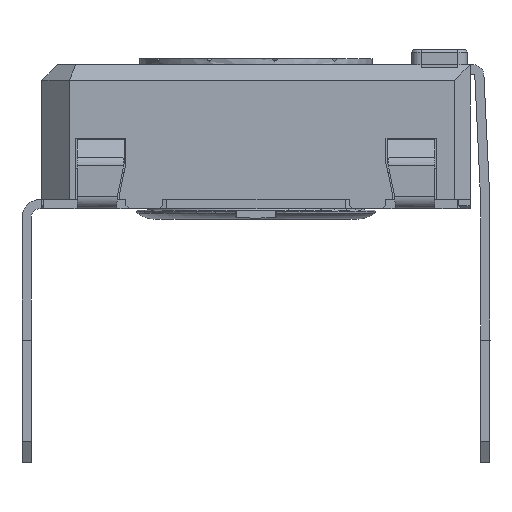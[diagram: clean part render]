
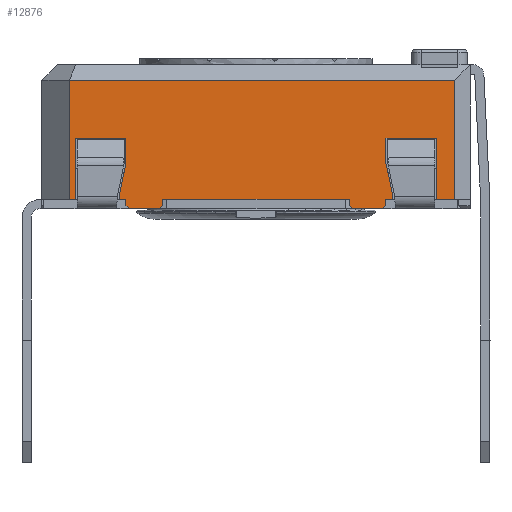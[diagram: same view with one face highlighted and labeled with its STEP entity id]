
A CAD part, left-side view. The second image highlights one B-rep face of the part: STEP entity #12876.
In plain terms, the highlighted planar face has unit normal (-1, 0, 0).
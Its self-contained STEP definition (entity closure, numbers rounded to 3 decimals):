
#446=PLANE('',#13748);
#1044=FACE_OUTER_BOUND('',#1730,.T.);
#1730=EDGE_LOOP('',(#10612,#10613,#10614,#10615,#10616,#10617,#10618,#10619,
#10620,#10621,#10622,#10623,#10624,#10625,#10626,#10627,#10628,#10629,#10630,
#10631,#10632,#10633,#10634,#10635,#10636,#10637,#10638,#10639));
#2720=LINE('',#19638,#4204);
#2726=LINE('',#19650,#4210);
#2729=LINE('',#19657,#4213);
#2734=LINE('',#19666,#4218);
#2754=LINE('',#19707,#4238);
#2768=LINE('',#19733,#4252);
#2772=LINE('',#19740,#4256);
#2787=LINE('',#19769,#4271);
#2790=LINE('',#19775,#4274);
#2795=LINE('',#19785,#4279);
#2798=LINE('',#19791,#4282);
#2801=LINE('',#19797,#4285);
#2819=LINE('',#19832,#4303);
#2831=LINE('',#19854,#4315);
#2834=LINE('',#19860,#4318);
#2871=LINE('',#19994,#4355);
#2879=LINE('',#20008,#4363);
#2888=LINE('',#20026,#4372);
#2893=LINE('',#20036,#4377);
#2895=LINE('',#20039,#4379);
#3019=LINE('',#20347,#4503);
#3021=LINE('',#20352,#4505);
#3024=LINE('',#20356,#4508);
#3026=LINE('',#20360,#4510);
#3029=LINE('',#20368,#4513);
#3030=LINE('',#20370,#4514);
#3031=LINE('',#20371,#4515);
#3032=LINE('',#20372,#4516);
#4204=VECTOR('',#15781,10.);
#4210=VECTOR('',#15789,10.);
#4213=VECTOR('',#15794,10.);
#4218=VECTOR('',#15801,10.);
#4238=VECTOR('',#15835,10.);
#4252=VECTOR('',#15849,10.);
#4256=VECTOR('',#15853,10.);
#4271=VECTOR('',#15880,10.);
#4274=VECTOR('',#15885,10.);
#4279=VECTOR('',#15892,10.);
#4282=VECTOR('',#15897,10.);
#4285=VECTOR('',#15902,10.);
#4303=VECTOR('',#15922,10.);
#4315=VECTOR('',#15936,10.);
#4318=VECTOR('',#15941,10.);
#4355=VECTOR('',#16022,10.);
#4363=VECTOR('',#16032,10.);
#4372=VECTOR('',#16043,10.);
#4377=VECTOR('',#16050,10.);
#4379=VECTOR('',#16054,10.);
#4503=VECTOR('',#16346,10.);
#4505=VECTOR('',#16350,10.);
#4508=VECTOR('',#16355,10.);
#4510=VECTOR('',#16361,10.);
#4513=VECTOR('',#16372,10.);
#4514=VECTOR('',#16373,10.);
#4515=VECTOR('',#16374,10.);
#4516=VECTOR('',#16375,10.);
#5908=VERTEX_POINT('',#19635);
#5909=VERTEX_POINT('',#19637);
#5913=VERTEX_POINT('',#19647);
#5915=VERTEX_POINT('',#19653);
#5917=VERTEX_POINT('',#19656);
#5920=VERTEX_POINT('',#19664);
#5945=VERTEX_POINT('',#19730);
#5946=VERTEX_POINT('',#19732);
#5948=VERTEX_POINT('',#19737);
#5949=VERTEX_POINT('',#19739);
#5956=VERTEX_POINT('',#19766);
#5958=VERTEX_POINT('',#19772);
#5962=VERTEX_POINT('',#19782);
#5964=VERTEX_POINT('',#19788);
#5967=VERTEX_POINT('',#19795);
#5983=VERTEX_POINT('',#19830);
#5992=VERTEX_POINT('',#19852);
#5994=VERTEX_POINT('',#19858);
#6021=VERTEX_POINT('',#19992);
#6026=VERTEX_POINT('',#20006);
#6033=VERTEX_POINT('',#20023);
#6037=VERTEX_POINT('',#20033);
#6111=VERTEX_POINT('',#20344);
#6112=VERTEX_POINT('',#20346);
#6113=VERTEX_POINT('',#20350);
#6114=VERTEX_POINT('',#20351);
#6115=VERTEX_POINT('',#20367);
#6116=VERTEX_POINT('',#20369);
#7396=EDGE_CURVE('',#5909,#5908,#2720,.T.);
#7402=EDGE_CURVE('',#5908,#5913,#2726,.T.);
#7405=EDGE_CURVE('',#5917,#5915,#2729,.T.);
#7410=EDGE_CURVE('',#5920,#5915,#2734,.T.);
#7430=EDGE_CURVE('',#5913,#5917,#2754,.T.);
#7444=EDGE_CURVE('',#5946,#5945,#2768,.T.);
#7448=EDGE_CURVE('',#5949,#5948,#2772,.T.);
#7464=EDGE_CURVE('',#5945,#5956,#2787,.T.);
#7467=EDGE_CURVE('',#5956,#5958,#2790,.T.);
#7472=EDGE_CURVE('',#5958,#5962,#2795,.T.);
#7475=EDGE_CURVE('',#5962,#5964,#2798,.T.);
#7478=EDGE_CURVE('',#5964,#5967,#2801,.T.);
#7496=EDGE_CURVE('',#5967,#5983,#2819,.T.);
#7508=EDGE_CURVE('',#5992,#5983,#2831,.T.);
#7511=EDGE_CURVE('',#5994,#5992,#2834,.T.);
#7560=EDGE_CURVE('',#6021,#5994,#2871,.T.);
#7568=EDGE_CURVE('',#6021,#6026,#2879,.T.);
#7577=EDGE_CURVE('',#6026,#6033,#2888,.T.);
#7582=EDGE_CURVE('',#6033,#6037,#2893,.T.);
#7584=EDGE_CURVE('',#6037,#5909,#2895,.T.);
#7724=EDGE_CURVE('',#6111,#6112,#3019,.T.);
#7726=EDGE_CURVE('',#6113,#6114,#3021,.T.);
#7729=EDGE_CURVE('',#5946,#6111,#3024,.T.);
#7731=EDGE_CURVE('',#5948,#6114,#3026,.T.);
#7734=EDGE_CURVE('',#5920,#6115,#3029,.T.);
#7735=EDGE_CURVE('',#6116,#6115,#3030,.T.);
#7736=EDGE_CURVE('',#5949,#6116,#3031,.T.);
#7737=EDGE_CURVE('',#6113,#6112,#3032,.T.);
#10612=ORIENTED_EDGE('',*,*,#7402,.T.);
#10613=ORIENTED_EDGE('',*,*,#7430,.T.);
#10614=ORIENTED_EDGE('',*,*,#7405,.T.);
#10615=ORIENTED_EDGE('',*,*,#7410,.F.);
#10616=ORIENTED_EDGE('',*,*,#7734,.T.);
#10617=ORIENTED_EDGE('',*,*,#7735,.F.);
#10618=ORIENTED_EDGE('',*,*,#7736,.F.);
#10619=ORIENTED_EDGE('',*,*,#7448,.T.);
#10620=ORIENTED_EDGE('',*,*,#7731,.T.);
#10621=ORIENTED_EDGE('',*,*,#7726,.F.);
#10622=ORIENTED_EDGE('',*,*,#7737,.T.);
#10623=ORIENTED_EDGE('',*,*,#7724,.F.);
#10624=ORIENTED_EDGE('',*,*,#7729,.F.);
#10625=ORIENTED_EDGE('',*,*,#7444,.T.);
#10626=ORIENTED_EDGE('',*,*,#7464,.T.);
#10627=ORIENTED_EDGE('',*,*,#7467,.T.);
#10628=ORIENTED_EDGE('',*,*,#7472,.T.);
#10629=ORIENTED_EDGE('',*,*,#7475,.T.);
#10630=ORIENTED_EDGE('',*,*,#7478,.T.);
#10631=ORIENTED_EDGE('',*,*,#7496,.T.);
#10632=ORIENTED_EDGE('',*,*,#7508,.F.);
#10633=ORIENTED_EDGE('',*,*,#7511,.F.);
#10634=ORIENTED_EDGE('',*,*,#7560,.F.);
#10635=ORIENTED_EDGE('',*,*,#7568,.T.);
#10636=ORIENTED_EDGE('',*,*,#7577,.T.);
#10637=ORIENTED_EDGE('',*,*,#7582,.T.);
#10638=ORIENTED_EDGE('',*,*,#7584,.T.);
#10639=ORIENTED_EDGE('',*,*,#7396,.T.);
#12876=ADVANCED_FACE('',(#1044),#446,.T.);
#13748=AXIS2_PLACEMENT_3D('',#20366,#16370,#16371);
#15781=DIRECTION('',(0.,0.208,-0.978));
#15789=DIRECTION('',(0.,0.,-1.));
#15794=DIRECTION('',(0.,0.,-1.));
#15801=DIRECTION('',(0.,0.707,0.707));
#15835=DIRECTION('',(0.,-1.,0.));
#15849=DIRECTION('',(0.,-1.,0.));
#15853=DIRECTION('',(0.,-1.,0.));
#15880=DIRECTION('',(0.,0.,1.));
#15885=DIRECTION('',(0.,0.208,0.978));
#15892=DIRECTION('',(0.,0.,1.));
#15897=DIRECTION('',(0.,-1.,0.));
#15902=DIRECTION('',(0.,0.,-1.));
#15922=DIRECTION('',(0.,-1.,0.));
#15936=DIRECTION('',(0.,0.,-1.));
#15941=DIRECTION('',(0.,-1.,0.));
#16022=DIRECTION('',(0.,0.,1.));
#16032=DIRECTION('',(0.,-1.,0.));
#16043=DIRECTION('',(0.,0.,1.));
#16050=DIRECTION('',(0.,-1.,0.));
#16054=DIRECTION('',(0.,0.,-1.));
#16346=DIRECTION('',(0.,0.707,-0.707));
#16350=DIRECTION('',(0.,0.707,0.707));
#16355=DIRECTION('',(0.,0.,-1.));
#16361=DIRECTION('',(0.,0.,-1.));
#16370=DIRECTION('center_axis',(-1.,0.,0.));
#16371=DIRECTION('ref_axis',(0.,0.,1.));
#16372=DIRECTION('',(0.,-1.,0.));
#16373=DIRECTION('',(0.,0.707,-0.707));
#16374=DIRECTION('',(0.,0.,-1.));
#16375=DIRECTION('',(0.,-1.,0.));
#19635=CARTESIAN_POINT('',(-14.467,1.552,0.235));
#19637=CARTESIAN_POINT('',(-14.467,1.352,1.176));
#19638=CARTESIAN_POINT('',(-14.467,1.228,1.757));
#19647=CARTESIAN_POINT('',(-14.467,1.552,0.));
#19650=CARTESIAN_POINT('',(-14.467,1.552,0.));
#19653=CARTESIAN_POINT('',(-14.467,1.352,-0.2));
#19656=CARTESIAN_POINT('',(-14.467,1.352,0.));
#19657=CARTESIAN_POINT('',(-14.467,1.352,0.));
#19664=CARTESIAN_POINT('',(-14.467,1.252,-0.3));
#19666=CARTESIAN_POINT('',(-14.467,-1.436,-2.988));
#19707=CARTESIAN_POINT('',(-14.467,4.102,0.));
#19730=CARTESIAN_POINT('',(-14.467,-7.348,0.));
#19732=CARTESIAN_POINT('',(-14.467,-7.148,0.));
#19733=CARTESIAN_POINT('',(-14.467,4.102,0.));
#19737=CARTESIAN_POINT('',(-14.467,-5.948,0.));
#19739=CARTESIAN_POINT('',(-14.467,0.152,0.));
#19740=CARTESIAN_POINT('',(-14.467,4.102,0.));
#19766=CARTESIAN_POINT('',(-14.467,-7.348,0.235));
#19769=CARTESIAN_POINT('',(-14.467,-7.348,0.118));
#19772=CARTESIAN_POINT('',(-14.467,-7.148,1.176));
#19775=CARTESIAN_POINT('',(-14.467,-7.453,-0.254));
#19782=CARTESIAN_POINT('',(-14.467,-7.148,2.));
#19785=CARTESIAN_POINT('',(-14.467,-7.148,0.588));
#19788=CARTESIAN_POINT('',(-14.467,-8.798,2.));
#19791=CARTESIAN_POINT('',(-14.467,-8.523,2.));
#19795=CARTESIAN_POINT('',(-14.467,-8.798,0.));
#19797=CARTESIAN_POINT('',(-14.467,-8.798,0.));
#19830=CARTESIAN_POINT('',(-14.467,-9.398,0.));
#19832=CARTESIAN_POINT('',(-14.467,-9.595,0.));
#19852=CARTESIAN_POINT('',(-14.467,-9.398,3.9));
#19854=CARTESIAN_POINT('',(-14.467,-9.398,0.));
#19858=CARTESIAN_POINT('',(-14.467,3.202,3.9));
#19860=CARTESIAN_POINT('',(-14.467,-6.398,3.9));
#19992=CARTESIAN_POINT('',(-14.467,3.202,0.));
#19994=CARTESIAN_POINT('',(-14.467,3.202,0.));
#20006=CARTESIAN_POINT('',(-14.467,3.002,0.));
#20008=CARTESIAN_POINT('',(-14.467,-2.985,0.));
#20023=CARTESIAN_POINT('',(-14.467,3.002,2.));
#20026=CARTESIAN_POINT('',(-14.467,3.002,0.));
#20033=CARTESIAN_POINT('',(-14.467,1.352,2.));
#20036=CARTESIAN_POINT('',(-14.467,-3.448,2.));
#20039=CARTESIAN_POINT('',(-14.467,1.352,1.));
#20344=CARTESIAN_POINT('',(-14.467,-7.148,-0.2));
#20346=CARTESIAN_POINT('',(-14.467,-7.048,-0.3));
#20347=CARTESIAN_POINT('',(-14.467,-7.861,0.513));
#20350=CARTESIAN_POINT('',(-14.467,-6.048,-0.3));
#20351=CARTESIAN_POINT('',(-14.467,-5.948,-0.2));
#20352=CARTESIAN_POINT('',(-14.467,-6.911,-1.163));
#20356=CARTESIAN_POINT('',(-14.467,-7.148,0.));
#20360=CARTESIAN_POINT('',(-14.467,-5.948,0.));
#20366=CARTESIAN_POINT('Origin',(-14.467,-9.898,0.));
#20367=CARTESIAN_POINT('',(-14.467,0.252,-0.3));
#20368=CARTESIAN_POINT('',(-14.467,0.152,-0.3));
#20369=CARTESIAN_POINT('',(-14.467,0.152,-0.2));
#20370=CARTESIAN_POINT('',(-14.467,-2.386,2.338));
#20371=CARTESIAN_POINT('',(-14.467,0.152,0.));
#20372=CARTESIAN_POINT('',(-14.467,-7.148,-0.3));
